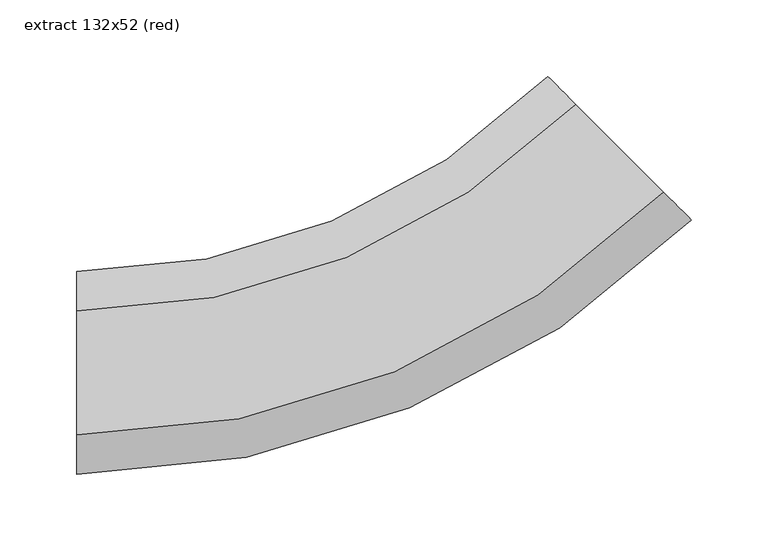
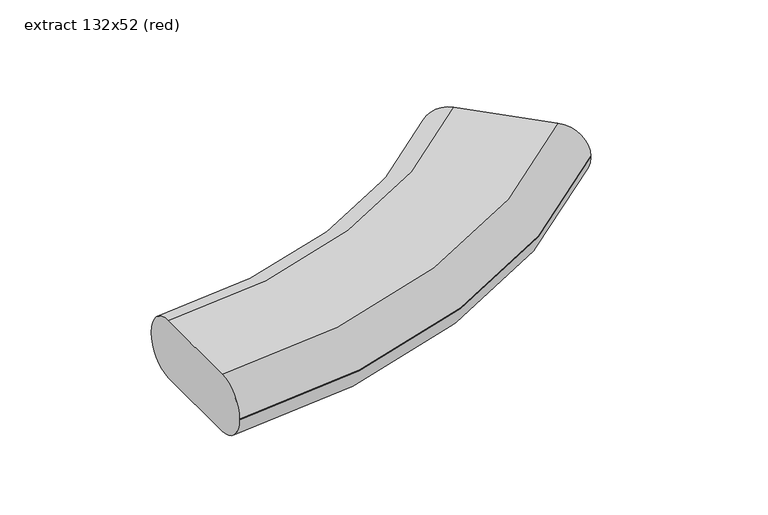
"""IFC4 building model written with IfcOpenShell, lengths in millimetres: duct segment geometry, NLRS_57_DUF_UN_Hybalans flexbend oval_M&G : extract 132x52 (red)."""

from ifc_helpers import new_model, si_unit, point, frame, origin, place, context, project, spatial, polyline, circle_curve, ellipse_curve, trimmed, source, transform, mapped, element, save
from ifc_brep_helpers import plane_surface, cylinder_surface, revolved_surface, advanced_brep


def extract_132x52_red_d2bc55af(model_context):
    return source(origin(), model_context, "Body", "AdvancedBrep", [
        advanced_brep(
        [(-207.1067812, -40.4, 26.0), (-207.1067812, 40.4, 26.0), (-207.1067812, 66.0, 0.4), (-207.1067812, 66.0, -0.4), (-207.1067812, 40.4, -26.0), (-207.1067812, -40.4, -26.0), (-207.1067812, -66.0, -0.4), (-207.1067812, -66.0, 0.4), (175.0137234, 117.8794954, 26.0), (193.115657, 99.7775618, 0.4), (193.115657, 99.7775618, -0.4), (175.0137234, 117.8794954, -26.0), (117.8794954, 175.0137234, -26.0), (99.7775618, 193.115657, -0.4), (99.7775618, 193.115657, 0.4), (117.8794954, 175.0137234, 26.0)],
        [
            (0, 1),
            (1, 2, circle_curve(frame((-207.1067812, 40.4, 0.4), z_axis=(-1.0, 0.0, 0.0), x_axis=(0.0, 1.0, 0.0)), 25.6)),
            (2, 3),
            (3, 4, circle_curve(frame((-207.1067812, 40.4, -0.4), z_axis=(-1.0, 0.0, 0.0), x_axis=(0.0, 1.0, 0.0)), 25.6)),
            (4, 5),
            (5, 6, circle_curve(frame((-207.1067812, -40.4, -0.4), z_axis=(-1.0, 0.0, 0.0), x_axis=(0.0, 1.0, 0.0)), 25.6)),
            (6, 7),
            (7, 0, circle_curve(frame((-207.1067812, -40.4, 0.4), z_axis=(-1.0, 0.0, 0.0), x_axis=(0.0, 1.0, 0.0)), 25.6)),
            (8, 9, circle_curve(frame((175.0137234, 117.8794954, 0.4), z_axis=(0.7071067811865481, 0.7071067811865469, 0.0), x_axis=(-0.7071067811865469, 0.7071067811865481, 0.0)), 25.6)),
            (9, 10),
            (10, 11, circle_curve(frame((175.0137234, 117.8794954, -0.4), z_axis=(0.7071067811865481, 0.7071067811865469, 0.0), x_axis=(-0.7071067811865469, 0.7071067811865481, 0.0)), 25.6)),
            (11, 12),
            (12, 13, circle_curve(frame((117.8794954, 175.0137234, -0.4), z_axis=(0.7071067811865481, 0.7071067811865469, 0.0), x_axis=(-0.7071067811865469, 0.7071067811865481, 0.0)), 25.6)),
            (13, 14),
            (14, 15, circle_curve(frame((117.8794954, 175.0137234, 0.4), z_axis=(0.7071067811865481, 0.7071067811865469, 0.0), x_axis=(-0.7071067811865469, 0.7071067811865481, 0.0)), 25.6)),
            (15, 8),
            (15, 1, circle_curve(frame((-207.1067812, 500.0, 26.0), z_axis=(0.0, 0.0, -1.0), x_axis=(0.0, -1.0, 0.0)), 459.6)),
            (0, 8, circle_curve(frame((-207.1067812, 500.0, 26.0), z_axis=(0.0, 0.0, 1.0), x_axis=(0.0, -1.0, 0.0)), 540.4)),
            (14, 2, circle_curve(frame((-207.1067812, 500.0, 0.4), z_axis=(0.0, 0.0, -1.0), x_axis=(0.0, -1.0, 0.0)), 434.0)),
            (13, 3, circle_curve(frame((-207.1067812, 500.0, -0.4), z_axis=(0.0, 0.0, -1.0), x_axis=(0.0, -1.0, 0.0)), 434.0)),
            (12, 4, circle_curve(frame((-207.1067812, 500.0, -26.0), z_axis=(0.0, 0.0, -1.0), x_axis=(0.0, -1.0, 0.0)), 459.6)),
            (11, 5, circle_curve(frame((-207.1067812, 500.0, -26.0), z_axis=(0.0, 0.0, -1.0), x_axis=(0.0, -1.0, 0.0)), 540.4)),
            (10, 6, circle_curve(frame((-207.1067812, 500.0, -0.4), z_axis=(0.0, 0.0, -1.0), x_axis=(0.0, -1.0, 0.0)), 566.0)),
            (9, 7, circle_curve(frame((-207.1067812, 500.0, 0.4), z_axis=(0.0, 0.0, -1.0), x_axis=(0.0, -1.0, 0.0)), 566.0)),
        ],
        [
            plane_surface(frame((-207.1067812, 0.0, 0.0), z_axis=(-1.0, 0.0, 0.0), x_axis=(0.0, 0.0, 1.0))),
            plane_surface(frame((146.4466094, 146.4466094, 0.0), z_axis=(0.7071067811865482, 0.707106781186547, 0.0), x_axis=(0.0, 0.0, 1.0))),
            plane_surface(frame((-207.1067812, 500.0, 26.0), z_axis=(0.0, 0.0, 1.0), x_axis=(0.0, -1.0, 0.0))),
            revolved_surface(trimmed(ellipse_curve(frame((-207.1067812, 40.4, 0.4), z_axis=(-1.0, 0.0, 0.0), x_axis=(0.0, 1.0, 0.0)), 25.6, 25.6), [point((-207.1067812, 40.4, 26.0))], [point((-207.1067812, 66.0, 0.4))], True, "CARTESIAN"), (-207.1067812, 500.0, 0.0), (0.0, 0.0, 1.0)),
            revolved_surface(polyline([(-207.1067812, 66.0, 0.4), (-207.1067812, 66.0, -0.4)]), (-207.1067812, 500.0, 0.0), (0.0, 0.0, 1.0)),
            revolved_surface(trimmed(ellipse_curve(frame((-207.1067812, 40.4, -0.4), z_axis=(-1.0, 0.0, 0.0), x_axis=(0.0, 1.0, 0.0)), 25.6, 25.6), [point((-207.1067812, 66.0, -0.4))], [point((-207.1067812, 40.4, -26.0))], True, "CARTESIAN"), (-207.1067812, 500.0, 0.0), (0.0, 0.0, 1.0)),
            plane_surface(frame((-207.1067812, 500.0, -26.0), z_axis=(0.0, 0.0, -1.0), x_axis=(0.0, -1.0, 0.0))),
            revolved_surface(trimmed(ellipse_curve(frame((-207.1067812, -40.4, -0.4), z_axis=(-1.0, 0.0, 0.0), x_axis=(0.0, 1.0, 0.0)), 25.6, 25.6), [point((-207.1067812, -40.4, -26.0))], [point((-207.1067812, -66.0, -0.4))], True, "CARTESIAN"), (-207.1067812, 500.0, 0.0), (0.0, 0.0, 1.0)),
            cylinder_surface(frame((-207.1067812, 500.0, 0.0), z_axis=(0.0, 0.0, 1.0), x_axis=(0.0, -1.0, 0.0)), 566.0),
            revolved_surface(trimmed(ellipse_curve(frame((-207.1067812, -40.4, 0.4), z_axis=(-1.0, 0.0, 0.0), x_axis=(0.0, 1.0, 0.0)), 25.6, 25.6), [point((-207.1067812, -66.0, 0.4))], [point((-207.1067812, -40.4, 26.0))], True, "CARTESIAN"), (-207.1067812, 500.0, 0.0), (0.0, 0.0, 1.0)),
        ],
        [
            (0, [[1, 2, 3, 4, 5, 6, 7, 8]]),
            (1, [[9, 10, 11, 12, 13, 14, 15, 16]]),
            (2, [[17, -1, 18, -16]]),
            (3, [[19, -2, -17, -15]]),
            (4, [[20, -3, -19, -14]]),
            (5, [[21, -4, -20, -13]]),
            (6, [[22, -5, -21, -12]]),
            (7, [[23, -6, -22, -11]]),
            (8, [[24, -7, -23, -10]]),
            (9, [[-18, -8, -24, -9]]),
        ],
    ),
    ])


if __name__ == "__main__":
    model = new_model("IFC4")
    model_context = context("Model", 3, world=origin())
    ifc_project = project(units=[si_unit("LENGTHUNIT", "METRE", prefix="MILLI")], contexts=[model_context])
    site = spatial("IfcSite", under=ifc_project)
    building = spatial("IfcBuilding", under=site)
    placement = place(None, origin())
    extract_132x52_red_shape = extract_132x52_red_d2bc55af(model_context)
    element("IfcDuctSegment", 1, ObjectType="NLRS_57_DUF_UN_Hybalans flexbend oval_M&G : extract 132x52 (red)", at=placement, inside=building, context=model_context, shape_type="MappedRepresentation", body=[
        mapped(extract_132x52_red_shape, transform((0.0, 0.0, 0.0), x_axis=(1.0, 0.0, 0.0), y_axis=(0.0, 1.0, 0.0), z_axis=(0.0, 0.0, 1.0))),
    ])
    save(model, "model.ifc")
